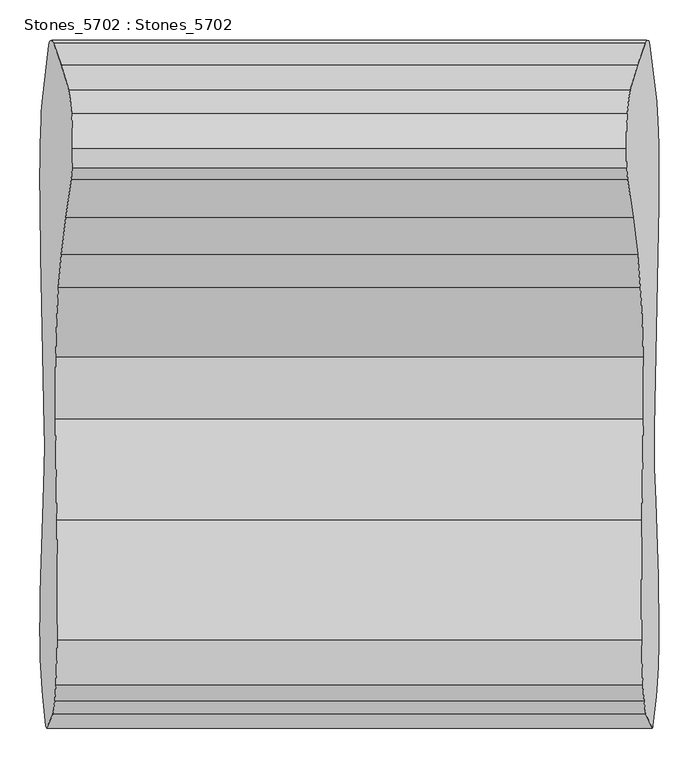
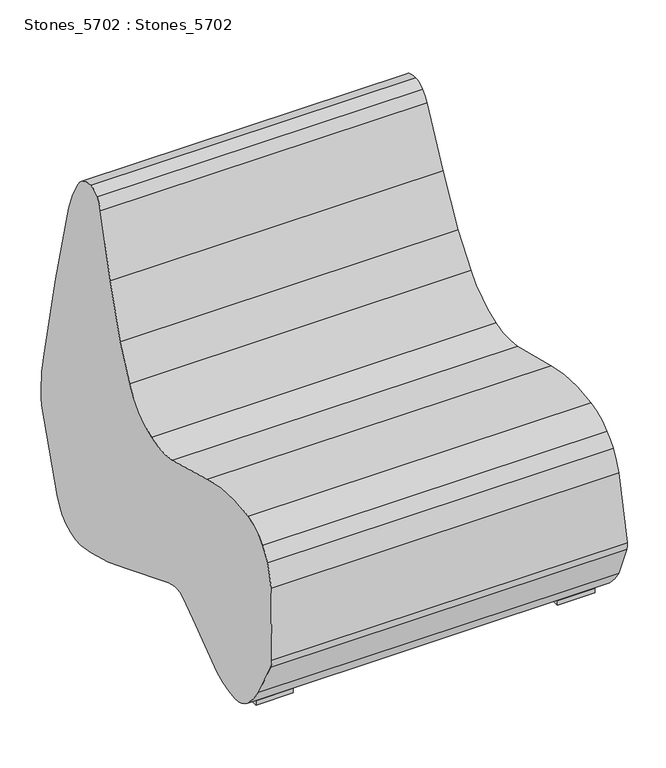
"""IFC4 building model written with IfcOpenShell, lengths in millimetres: furniture geometry, Stones_5702 : Stones_5702."""

from ifc_helpers import new_model, si_unit, frame, origin, origin_with_axes, place, context, project, spatial, polyline, ellipse_curve, outline, extrude, source, transform, mapped, element, save
from ifc_brep_helpers import plane_surface, cylinder_surface, revolved_surface, advanced_brep


def stones_5702_stones_5702_3250bf2c(model_context):
    return source(origin(), model_context, "Body", "SolidModel", [
        advanced_brep(
        [(385.3110174, -89.4815743, 39.7011175), (385.8233895, -98.5477213, 29.9244759), (-385.8233895, -98.5477213, 29.9244759), (-385.3110174, -89.4815743, 39.7011175), (384.2904864, -76.3119844, 59.1740089), (-384.2904864, -76.3119844, 59.1740089), (376.0286103, -5.8199936, 216.8199959), (-376.0286103, -5.8199936, 216.8199959), (374.5680628, 0.0, 244.6889021), (-374.5680628, 0.0, 244.6889021), (370.1478804, -3.4330027, 329.0310064), (-370.1478804, -3.4330027, 329.0310064), (360.5753916, -30.0880254, 511.6849737), (-360.5753916, -30.0880254, 511.6849737), (351.4227412, -61.5019873, 686.3279474), (-351.4227412, -61.5019873, 686.3279474), (347.7210736, -90.9500081, 756.9599733), (-347.7210736, -90.9500081, 756.9599733), (346.513597, -134.8483783, 780.0), (-346.513597, -134.8483783, 780.0), (347.0881683, -159.273999, 769.0365254), (-347.0881683, -159.273999, 769.0365254), (348.2353507, -173.6870001, 747.1469822), (-348.2353507, -173.6870001, 747.1469822), (354.8943365, -221.2533235, 620.0859628), (-354.8943365, -221.2533235, 620.0859628), (360.5063431, -267.1055076, 513.0024987), (-360.5063431, -267.1055076, 513.0024987), (364.0739166, -308.3042284, 444.9291411), (-364.0739166, -308.3042284, 444.9291411), (367.5681088, -395.6820072, 378.2559814), (-367.5681088, -395.6820072, 378.2559814), (367.8416238, -473.037008, 373.0370049), (-367.8416238, -473.037008, 373.0370049), (366.1026296, -599.6220026, 406.2189912), (-366.1026296, -599.6220026, 406.2189912), (365.7171703, -749.4260037, 413.5739928), (-365.7171703, -749.4260037, 413.5739928), (367.3106294, -805.643993, 383.168981), (-367.3106294, -805.643993, 383.168981), (368.6924678, -825.7290327, 356.8019341), (-368.6924678, -825.7290327, 356.8019341), (371.1027502, -843.0850216, 310.8110066), (-371.1027502, -843.0850216, 310.8110066), (378.9563767, -860.0, 160.9548844), (-378.9563767, -860.0, 160.9548844), (379.8386269, -857.073153, 144.1205484), (-379.8386269, -857.073153, 144.1205484), (383.9128025, -819.9294051, 66.3806469), (-383.9128025, -819.9294051, 66.3806469), (386.2895288, -783.4470012, 21.0300072), (-386.2895288, -783.4470012, 21.0300072), (387.1718138, -739.5440124, 4.1950079), (-387.1718138, -739.5440124, 4.1950079), (386.2520049, -670.8280033, 21.746007), (-386.2520049, -670.8280033, 21.746007), (383.0613141, -575.6870128, 82.6280143), (-383.0613141, -575.6870128, 82.6280143), (381.7174739, -534.5275066, 108.2700129), (-381.7174739, -534.5275066, 108.2700129), (381.4466827, -504.6660086, 113.4370167), (-381.4466827, -504.6660086, 113.4370167), (381.6770162, -484.561163, 109.0419911), (-381.6770162, -484.561163, 109.0419911), (384.7945968, -330.1980137, 49.5550103), (-384.7945968, -330.1980137, 49.5550103), (386.8694213, -206.3195893, 9.9649997), (-386.8694213, -206.3195893, 9.9649997), (387.200074, -168.3434362, 3.6557696), (-387.200074, -168.3434362, 3.6557696)],
        [
            (0, 1, ellipse_curve(frame((382.1171071, -165.0055036, 100.6445574), z_axis=(-0.9986295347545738, 0.0, -0.05233595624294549), x_axis=(0.052335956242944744, 0.0, -0.9986295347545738)), 97.1793904, 97.0462094)),
            (1, 2),
            (2, 3, ellipse_curve(frame((-382.1171071, -165.0055036, 100.6445574), z_axis=(0.9986295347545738, 0.0, -0.05233595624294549), x_axis=(0.052335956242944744, 0.0, 0.9986295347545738)), 97.1793904, 97.0462094)),
            (3, 0),
            (4, 0, ellipse_curve(frame((380.7175279, -198.1002691, 127.3501177), z_axis=(-0.9986295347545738, 0.0, -0.05233595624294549), x_axis=(0.052335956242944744, 0.0, -0.9986295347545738)), 139.7636305, 139.5720893)),
            (3, 5, ellipse_curve(frame((-380.7175279, -198.1002691, 127.3501177), z_axis=(0.9986295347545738, 0.0, -0.05233595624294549), x_axis=(0.052335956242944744, 0.0, 0.9986295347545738)), 139.7636305, 139.5720893)),
            (5, 4),
            (6, 4, ellipse_curve(frame((359.6555626, -916.0209114, 529.2363581), z_axis=(-0.9986295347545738, 0.0, -0.05233595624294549), x_axis=(0.052335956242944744, 0.0, -0.9986295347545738)), 963.645793, 962.3251499)),
            (5, 7, ellipse_curve(frame((-359.6555626, -916.0209114, 529.2363581), z_axis=(0.9986295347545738, 0.0, -0.05233595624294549), x_axis=(0.052335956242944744, 0.0, 0.9986295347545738)), 963.645793, 962.3251499)),
            (7, 6),
            (8, 6, ellipse_curve(frame((374.0823172, -114.0171861, 253.9574813), z_axis=(-0.9986295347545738, 0.0, -0.05233595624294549), x_axis=(0.052335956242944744, 0.0, -0.9986295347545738)), 114.5502793, 114.3932922)),
            (7, 9, ellipse_curve(frame((-374.0823172, -114.0171861, 253.9574813), z_axis=(0.9986295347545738, 0.0, -0.05233595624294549), x_axis=(0.052335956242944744, 0.0, 0.9986295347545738)), 114.5502793, 114.3932922)),
            (9, 8),
            (10, 8, ellipse_curve(frame((373.0929265, -346.2529959, 272.8361791), z_axis=(-0.9986295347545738, 0.0, -0.05233595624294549), x_axis=(0.052335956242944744, 0.0, -0.9986295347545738)), 347.8719196, 347.3951732)),
            (9, 11, ellipse_curve(frame((-373.0929265, -346.2529959, 272.8361791), z_axis=(0.9986295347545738, 0.0, -0.05233595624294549), x_axis=(0.052335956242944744, 0.0, 0.9986295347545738)), 347.8719196, 347.3951732)),
            (11, 10),
            (12, 10, ellipse_curve(frame((325.6022598, 5181.9287288, 1179.012083), z_axis=(0.9986295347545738, 0.0, 0.05233595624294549), x_axis=(-0.052335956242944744, 0.0, 0.9986295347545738)), 5261.7752024, 5254.5641224)),
            (11, 13, ellipse_curve(frame((-325.6022598, 5181.9287288, 1179.012083), z_axis=(-0.9986295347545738, 0.0, 0.05233595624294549), x_axis=(-0.052335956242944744, 0.0, -0.9986295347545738)), 5261.7752024, 5254.5641224)),
            (13, 12),
            (14, 12, ellipse_curve(frame((372.2440724, -1769.0618125, 289.0332815), z_axis=(-0.9986295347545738, 0.0, -0.05233595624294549), x_axis=(0.052335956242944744, 0.0, -0.9986295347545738)), 1755.5755444, 1753.1695892)),
            (13, 15, ellipse_curve(frame((-372.2440724, -1769.0618125, 289.0332815), z_axis=(0.9986295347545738, 0.0, -0.05233595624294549), x_axis=(0.052335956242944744, 0.0, 0.9986295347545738)), 1755.5755444, 1753.1695892)),
            (15, 14),
            (16, 14, ellipse_curve(frame((354.1661541, -286.4896035, 633.9805107), z_axis=(-0.9986295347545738, 0.0, -0.05233595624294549), x_axis=(0.052335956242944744, 0.0, -0.9986295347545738)), 231.3141543, 230.9971463)),
            (15, 17, ellipse_curve(frame((-354.1661541, -286.4896035, 633.9805107), z_axis=(0.9986295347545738, 0.0, -0.05233595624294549), x_axis=(0.052335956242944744, 0.0, 0.9986295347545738)), 231.3141543, 230.9971463)),
            (17, 16),
            (18, 16, ellipse_curve(frame((349.0984884, -132.7398879, 730.6773325), z_axis=(-0.9986295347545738, 0.0, -0.05233595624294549), x_axis=(0.052335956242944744, 0.0, -0.9986295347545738)), 49.4354644, 49.3677148)),
            (17, 19, ellipse_curve(frame((-349.0984884, -132.7398879, 730.6773325), z_axis=(0.9986295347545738, 0.0, -0.05233595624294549), x_axis=(0.052335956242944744, 0.0, 0.9986295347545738)), 49.4354644, 49.3677148)),
            (19, 18),
            (20, 18, ellipse_curve(frame((348.4071949, -133.3037746, 743.8679997), z_axis=(-0.9986295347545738, 0.0, -0.05233595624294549), x_axis=(0.052335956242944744, 0.0, -0.9986295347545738)), 36.2146312, 36.1650003)),
            (19, 21, ellipse_curve(frame((-348.4071949, -133.3037746, 743.8679997), z_axis=(0.9986295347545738, 0.0, -0.05233595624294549), x_axis=(0.052335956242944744, 0.0, 0.9986295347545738)), 36.2146312, 36.1650003)),
            (21, 20),
            (22, 20, ellipse_curve(frame((349.6530779, -108.7736674, 720.0951349), z_axis=(-0.9986295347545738, 0.0, -0.05233595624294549), x_axis=(0.052335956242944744, 0.0, -0.9986295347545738)), 70.4210659, 70.3245562)),
            (21, 23, ellipse_curve(frame((-349.6530779, -108.7736674, 720.0951349), z_axis=(0.9986295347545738, 0.0, -0.05233595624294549), x_axis=(0.052335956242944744, 0.0, 0.9986295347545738)), 70.4210659, 70.3245562)),
            (23, 22),
            (24, 22, ellipse_curve(frame((385.5639623, 1535.4743364, 34.8746403), z_axis=(-0.9986295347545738, 0.0, -0.05233595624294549), x_axis=(0.052335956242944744, 0.0, -0.9986295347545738)), 1854.17938, 1851.6382916)),
            (23, 25, ellipse_curve(frame((-385.5639623, 1535.4743364, 34.8746403), z_axis=(0.9986295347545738, 0.0, -0.05233595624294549), x_axis=(0.052335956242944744, 0.0, 0.9986295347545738)), 1854.17938, 1851.6382916)),
            (25, 24),
            (26, 24, ellipse_curve(frame((343.2587869, -887.7267892, 842.1054751), z_axis=(0.9986295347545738, 0.0, 0.05233595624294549), x_axis=(-0.052335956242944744, 0.0, 0.9986295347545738)), 703.445039, 702.4809921)),
            (25, 27, ellipse_curve(frame((-343.2587869, -887.7267892, 842.1054751), z_axis=(-0.9986295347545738, 0.0, 0.05233595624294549), x_axis=(-0.052335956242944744, 0.0, -0.9986295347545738)), 703.445039, 702.4809921)),
            (27, 26),
            (28, 26, ellipse_curve(frame((343.2587869, -887.7267892, 842.1054751), z_axis=(0.9986295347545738, 0.0, 0.05233595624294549), x_axis=(-0.052335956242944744, 0.0, 0.9986295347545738)), 703.445039, 702.4809921)),
            (27, 29, ellipse_curve(frame((-343.2587869, -887.7267892, 842.1054751), z_axis=(-0.9986295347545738, 0.0, 0.05233595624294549), x_axis=(-0.052335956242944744, 0.0, -0.9986295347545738)), 703.445039, 702.4809921)),
            (29, 28),
            (30, 28, ellipse_curve(frame((358.8673935, -453.2361586, 544.275519), z_axis=(0.9986295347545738, 0.0, 0.05233595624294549), x_axis=(-0.052335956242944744, 0.0, 0.9986295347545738)), 175.9538792, 175.7127405)),
            (29, 31, ellipse_curve(frame((-358.8673935, -453.2361586, 544.275519), z_axis=(-0.9986295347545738, 0.0, 0.05233595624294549), x_axis=(-0.052335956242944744, 0.0, -0.9986295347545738)), 175.9538792, 175.7127405)),
            (31, 30),
            (32, 30, ellipse_curve(frame((360.2751071, -443.9243084, 517.4147448), z_axis=(0.9986295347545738, 0.0, 0.05233595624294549), x_axis=(-0.052335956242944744, 0.0, 0.9986295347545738)), 147.4857996, 147.2836754)),
            (31, 33, ellipse_curve(frame((-360.2751071, -443.9243084, 517.4147448), z_axis=(-0.9986295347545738, 0.0, 0.05233595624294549), x_axis=(-0.052335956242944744, 0.0, -0.9986295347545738)), 147.4857996, 147.2836754)),
            (33, 32),
            (34, 32, ellipse_curve(frame((309.2373546, -247.5530042, 1491.2730764), z_axis=(0.9986295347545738, 0.0, 0.05233595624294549), x_axis=(-0.052335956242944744, 0.0, 0.9986295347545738)), 1142.30865, 1140.7431557)),
            (33, 35, ellipse_curve(frame((-309.2373546, -247.5530042, 1491.2730764), z_axis=(-0.9986295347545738, 0.0, 0.05233595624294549), x_axis=(-0.052335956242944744, 0.0, -0.9986295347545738)), 1142.30865, 1140.7431557)),
            (35, 34),
            (36, 34, ellipse_curve(frame((380.391966, -688.091325, 133.5622105), z_axis=(-0.9986295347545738, 0.0, -0.05233595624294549), x_axis=(0.052335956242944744, 0.0, -0.9986295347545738)), 287.0439394, 286.6505556)),
            (35, 37, ellipse_curve(frame((-380.391966, -688.091325, 133.5622105), z_axis=(0.9986295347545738, 0.0, -0.05233595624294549), x_axis=(0.052335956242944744, 0.0, 0.9986295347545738)), 287.0439394, 286.6505556)),
            (37, 36),
            (38, 36, ellipse_curve(frame((371.6340298, -724.6959368, 300.6735873), z_axis=(-0.9986295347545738, 0.0, -0.05233595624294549), x_axis=(0.052335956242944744, 0.0, -0.9986295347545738)), 115.7357626, 115.5771508)),
            (37, 39, ellipse_curve(frame((-371.6340298, -724.6959368, 300.6735873), z_axis=(0.9986295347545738, 0.0, -0.05233595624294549), x_axis=(0.052335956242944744, 0.0, 0.9986295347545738)), 115.7357626, 115.5771508)),
            (39, 38),
            (40, 38, ellipse_curve(frame((371.6340298, -724.6959368, 300.6735873), z_axis=(-0.9986295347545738, 0.0, -0.05233595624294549), x_axis=(0.052335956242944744, 0.0, -0.9986295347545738)), 115.7357626, 115.5771508)),
            (39, 41, ellipse_curve(frame((-371.6340298, -724.6959368, 300.6735873), z_axis=(0.9986295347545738, 0.0, -0.05233595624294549), x_axis=(0.052335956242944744, 0.0, 0.9986295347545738)), 115.7357626, 115.5771508)),
            (41, 40),
            (42, 40, ellipse_curve(frame((372.9854227, -678.2799832, 274.8874751), z_axis=(-0.9986295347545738, 0.0, -0.05233595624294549), x_axis=(0.052335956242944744, 0.0, -0.9986295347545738)), 168.9063177, 168.6748374)),
            (41, 43, ellipse_curve(frame((-372.9854227, -678.2799832, 274.8874751), z_axis=(0.9986295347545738, 0.0, -0.05233595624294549), x_axis=(0.052335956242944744, 0.0, 0.9986295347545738)), 168.9063177, 168.6748374)),
            (43, 42),
            (44, 42, ellipse_curve(frame((379.350579, -121.0881092, 153.4330579), z_axis=(-0.9986295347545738, 0.0, -0.05233595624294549), x_axis=(0.052335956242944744, 0.0, -0.9986295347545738)), 739.9642697, 738.9501744)),
            (43, 45, ellipse_curve(frame((-379.350579, -121.0881092, 153.4330579), z_axis=(0.9986295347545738, 0.0, -0.05233595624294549), x_axis=(0.052335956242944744, 0.0, 0.9986295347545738)), 739.9642697, 738.9501744)),
            (45, 44),
            (46, 44, ellipse_curve(frame((378.9815136, -812.8823189, 160.4752453), z_axis=(-0.9986295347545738, 0.0, -0.05233595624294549), x_axis=(0.052335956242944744, 0.0, -0.9986295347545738)), 47.1847874, 47.1201223)),
            (45, 47, ellipse_curve(frame((-378.9815136, -812.8823189, 160.4752453), z_axis=(0.9986295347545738, 0.0, -0.05233595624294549), x_axis=(0.052335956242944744, 0.0, 0.9986295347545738)), 47.1847874, 47.1201223)),
            (47, 46),
            (48, 46, ellipse_curve(frame((371.2406951, -413.7831485, 308.1788605), z_axis=(-0.9986295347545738, 0.0, -0.05233595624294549), x_axis=(0.052335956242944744, 0.0, -0.9986295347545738)), 473.3231464, 472.6744735)),
            (47, 49, ellipse_curve(frame((-371.2406951, -413.7831485, 308.1788605), z_axis=(0.9986295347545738, 0.0, -0.05233595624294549), x_axis=(0.052335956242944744, 0.0, 0.9986295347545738)), 473.3231464, 472.6744735)),
            (49, 48),
            (50, 48, ellipse_curve(frame((378.3398114, -641.3127469, 172.7196521), z_axis=(-0.9986295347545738, 0.0, -0.05233595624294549), x_axis=(0.052335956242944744, 0.0, -0.9986295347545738)), 208.1599849, 207.8747089)),
            (49, 51, ellipse_curve(frame((-378.3398114, -641.3127469, 172.7196521), z_axis=(0.9986295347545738, 0.0, -0.05233595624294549), x_axis=(0.052335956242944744, 0.0, 0.9986295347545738)), 208.1599849, 207.8747089)),
            (51, 50),
            (52, 50, ellipse_curve(frame((383.9056535, -740.8253182, 66.5170575), z_axis=(-0.9986295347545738, 0.0, -0.05233595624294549), x_axis=(0.052335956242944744, 0.0, -0.9986295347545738)), 62.4207651, 62.3352196)),
            (51, 53, ellipse_curve(frame((-383.9056535, -740.8253182, 66.5170575), z_axis=(0.9986295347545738, 0.0, -0.05233595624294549), x_axis=(0.052335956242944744, 0.0, 0.9986295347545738)), 62.4207651, 62.3352196)),
            (53, 52),
            (54, 52, ellipse_curve(frame((379.0046476, -742.7479694, 160.0338219), z_axis=(-0.9986295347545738, 0.0, -0.05233595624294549), x_axis=(0.052335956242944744, 0.0, -0.9986295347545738)), 156.0856562, 155.8717463)),
            (53, 55, ellipse_curve(frame((-379.0046476, -742.7479694, 160.0338219), z_axis=(0.9986295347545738, 0.0, -0.05233595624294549), x_axis=(0.052335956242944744, 0.0, 0.9986295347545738)), 156.0856562, 155.8717463)),
            (55, 54),
            (56, 54, ellipse_curve(frame((356.9297795, -961.8104094, 581.2473981), z_axis=(-0.9986295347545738, 0.0, -0.05233595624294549), x_axis=(0.052335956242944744, 0.0, -0.9986295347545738)), 631.5100276, 630.644565)),
            (55, 57, ellipse_curve(frame((-356.9297795, -961.8104094, 581.2473981), z_axis=(0.9986295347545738, 0.0, -0.05233595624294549), x_axis=(0.052335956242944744, 0.0, 0.9986295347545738)), 631.5100276, 630.644565)),
            (57, 56),
            (58, 56, ellipse_curve(frame((392.950332, -429.5654295, -106.0656895), z_axis=(0.9986295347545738, 0.0, 0.05233595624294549), x_axis=(-0.052335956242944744, 0.0, 0.9986295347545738)), 238.9838219, 238.6563029)),
            (57, 59, ellipse_curve(frame((-392.950332, -429.5654295, -106.0656895), z_axis=(-0.9986295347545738, 0.0, 0.05233595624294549), x_axis=(-0.052335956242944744, 0.0, -0.9986295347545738)), 238.9838219, 238.6563029)),
            (59, 58),
            (60, 58, ellipse_curve(frame((384.2623904, -510.7472969, 59.710113), z_axis=(0.9986295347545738, 0.0, 0.05233595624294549), x_axis=(-0.052335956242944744, 0.0, 0.9986295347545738)), 54.1441782, 54.0699755)),
            (59, 61, ellipse_curve(frame((-384.2623904, -510.7472969, 59.710113), z_axis=(-0.9986295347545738, 0.0, 0.05233595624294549), x_axis=(-0.052335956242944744, 0.0, -0.9986295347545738)), 54.1441782, 54.0699755)),
            (61, 60),
            (62, 60, ellipse_curve(frame((386.6830709, -515.9754163, 13.5207769), z_axis=(0.9986295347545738, 0.0, 0.05233595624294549), x_axis=(-0.052335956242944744, 0.0, 0.9986295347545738)), 100.6922476, 100.5542524)),
            (61, 63, ellipse_curve(frame((-386.6830709, -515.9754163, 13.5207769), z_axis=(-0.9986295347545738, 0.0, 0.05233595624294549), x_axis=(-0.052335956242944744, 0.0, -0.9986295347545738)), 100.6922476, 100.5542524)),
            (63, 62),
            (64, 62, ellipse_curve(frame((463.9029037, -1000.549303, -1459.9214079), z_axis=(0.9986295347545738, 0.0, 0.05233595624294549), x_axis=(-0.052335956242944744, 0.0, 0.9986295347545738)), 1653.8991091, 1651.6324979)),
            (63, 65, ellipse_curve(frame((-463.9029037, -1000.549303, -1459.9214079), z_axis=(-0.9986295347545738, 0.0, 0.05233595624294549), x_axis=(-0.052335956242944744, 0.0, -0.9986295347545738)), 1653.8991091, 1651.6324979)),
            (65, 64),
            (66, 64, ellipse_curve(frame((356.0602858, -86.7080041, 597.8383259), z_axis=(-0.9986295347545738, 0.0, -0.05233595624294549), x_axis=(0.052335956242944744, 0.0, -0.9986295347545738)), 600.7416057, 599.9183102)),
            (65, 67, ellipse_curve(frame((-356.0602858, -86.7080041, 597.8383259), z_axis=(0.9986295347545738, 0.0, -0.05233595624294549), x_axis=(0.052335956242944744, 0.0, 0.9986295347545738)), 600.7416057, 599.9183102)),
            (67, 66),
            (68, 66, ellipse_curve(frame((359.4749065, -99.964728, 532.6834804), z_axis=(-0.9986295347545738, 0.0, -0.05233595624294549), x_axis=(0.052335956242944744, 0.0, -0.9986295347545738)), 534.1605503, 533.4285018)),
            (67, 69, ellipse_curve(frame((-359.4749065, -99.964728, 532.6834804), z_axis=(0.9986295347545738, 0.0, -0.05233595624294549), x_axis=(0.052335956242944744, 0.0, 0.9986295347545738)), 534.1605503, 533.4285018)),
            (69, 68),
            (1, 68, ellipse_curve(frame((382.1171071, -165.0055036, 100.6445574), z_axis=(-0.9986295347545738, 0.0, -0.05233595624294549), x_axis=(0.052335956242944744, 0.0, -0.9986295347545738)), 97.1793904, 97.0462094)),
            (69, 2, ellipse_curve(frame((-382.1171071, -165.0055036, 100.6445574), z_axis=(0.9986295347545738, 0.0, -0.05233595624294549), x_axis=(0.052335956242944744, 0.0, 0.9986295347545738)), 97.1793904, 97.0462094)),
        ],
        [
            cylinder_surface(frame((-390.0, -165.0055036, 100.6445574), z_axis=(1.0, 0.0, 0.0), x_axis=(0.0, 1.0, 0.0)), 97.0462094),
            cylinder_surface(frame((-390.0, -198.1002691, 127.3501177), z_axis=(1.0, 0.0, 0.0), x_axis=(0.0, 1.0, 0.0)), 139.5720893),
            cylinder_surface(frame((-390.0, -916.0209114, 529.2363581), z_axis=(1.0, 0.0, 0.0), x_axis=(0.0, 1.0, 0.0)), 962.3251499),
            cylinder_surface(frame((-390.0, -114.0171861, 253.9574813), z_axis=(1.0, 0.0, 0.0), x_axis=(0.0, 1.0, 0.0)), 114.3932922),
            cylinder_surface(frame((-390.0, -346.2529959, 272.8361791), z_axis=(1.0, 0.0, 0.0), x_axis=(0.0, 1.0, 0.0)), 347.3951732),
            revolved_surface(polyline([(-600.9822965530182, 10436.4928512, 1179.012083), (600.9822965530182, 10436.4928512, 1179.012083)]), (-390.0, 5181.9287288, 1179.012083), (-1.0, 0.0, 0.0)),
            cylinder_surface(frame((-390.0, -1769.0618125, 289.0332815), z_axis=(1.0, 0.0, 0.0), x_axis=(0.0, 1.0, 0.0)), 1753.1695892),
            cylinder_surface(frame((-390.0, -286.4896035, 633.9805107), z_axis=(1.0, 0.0, 0.0), x_axis=(0.0, 1.0, 0.0)), 230.9971463),
            cylinder_surface(frame((-390.0, -132.7398879, 730.6773325), z_axis=(1.0, 0.0, 0.0), x_axis=(0.0, 1.0, 0.0)), 49.3677148),
            cylinder_surface(frame((-390.0, -133.3037746, 743.8679997), z_axis=(1.0, 0.0, 0.0), x_axis=(0.0, 1.0, 0.0)), 36.1650003),
            cylinder_surface(frame((-390.0, -108.7736674, 720.0951349), z_axis=(1.0, 0.0, 0.0), x_axis=(0.0, 1.0, 0.0)), 70.3245562),
            cylinder_surface(frame((-390.0, 1535.4743364, 34.8746403), z_axis=(1.0, 0.0, 0.0), x_axis=(0.0, 1.0, 0.0)), 1851.6382916),
            revolved_surface(polyline([(-380.0742556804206, -185.2457971, 842.1054751), (380.0742556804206, -185.2457971, 842.1054751)]), (-390.0, -887.7267892, 842.1054751), (-1.0, 0.0, 0.0)),
            revolved_surface(polyline([(-368.07610802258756, -277.5234181, 544.275519), (368.0761080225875, -277.5234181, 544.275519)]), (-390.0, -453.2361586, 544.275519), (-1.0, 0.0, 0.0)),
            revolved_surface(polyline([(-367.9939174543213, -296.640633, 517.4147448), (367.9939174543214, -296.640633, 517.4147448)]), (-390.0, -443.9243084, 517.4147448), (-1.0, 0.0, 0.0)),
            revolved_surface(polyline([(-369.02117012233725, 893.1901515, 1491.2730764), (369.02117012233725, 893.1901515, 1491.2730764)]), (-390.0, -247.5530042, 1491.2730764), (-1.0, 0.0, 0.0)),
            cylinder_surface(frame((-390.0, -688.091325, 133.5622105), z_axis=(1.0, 0.0, 0.0), x_axis=(0.0, 1.0, 0.0)), 286.6505556),
            cylinder_surface(frame((-390.0, -724.6959368, 300.6735873), z_axis=(1.0, 0.0, 0.0), x_axis=(0.0, 1.0, 0.0)), 115.5771508),
            cylinder_surface(frame((-390.0, -678.2799832, 274.8874751), z_axis=(1.0, 0.0, 0.0), x_axis=(0.0, 1.0, 0.0)), 168.6748374),
            cylinder_surface(frame((-390.0, -121.0881092, 153.4330579), z_axis=(1.0, 0.0, 0.0), x_axis=(0.0, 1.0, 0.0)), 738.9501744),
            cylinder_surface(frame((-390.0, -812.8823189, 160.4752453), z_axis=(1.0, 0.0, 0.0), x_axis=(0.0, 1.0, 0.0)), 47.1201223),
            cylinder_surface(frame((-390.0, -413.7831485, 308.1788605), z_axis=(1.0, 0.0, 0.0), x_axis=(0.0, 1.0, 0.0)), 472.6744735),
            cylinder_surface(frame((-390.0, -641.3127469, 172.7196521), z_axis=(1.0, 0.0, 0.0), x_axis=(0.0, 1.0, 0.0)), 207.8747089),
            cylinder_surface(frame((-390.0, -740.8253182, 66.5170575), z_axis=(1.0, 0.0, 0.0), x_axis=(0.0, 1.0, 0.0)), 62.3352196),
            cylinder_surface(frame((-390.0, -742.7479694, 160.0338219), z_axis=(1.0, 0.0, 0.0), x_axis=(0.0, 1.0, 0.0)), 155.8717463),
            cylinder_surface(frame((-390.0, -961.8104094, 581.2473981), z_axis=(1.0, 0.0, 0.0), x_axis=(0.0, 1.0, 0.0)), 630.644565),
            revolved_surface(polyline([(-405.4577788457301, -190.9091266, -106.0656895), (405.4577788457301, -190.9091266, -106.0656895)]), (-390.0, -429.5654295, -106.0656895), (-1.0, 0.0, 0.0)),
            revolved_surface(polyline([(-387.0960777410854, -456.6773214, 59.710113), (387.0960777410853, -456.6773214, 59.710113)]), (-390.0, -510.7472969, 59.710113), (-1.0, 0.0, 0.0)),
            revolved_surface(polyline([(-391.9528959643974, -415.4211639, 13.5207769), (391.9528959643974, -415.4211639, 13.5207769)]), (-390.0, -515.9754163, 13.5207769), (-1.0, 0.0, 0.0)),
            revolved_surface(polyline([(-550.4612951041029, 651.0831949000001, -1459.9214079), (550.4612951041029, 651.0831949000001, -1459.9214079)]), (-390.0, -1000.549303, -1459.9214079), (-1.0, 0.0, 0.0)),
            cylinder_surface(frame((-390.0, -86.7080041, 597.8383259), z_axis=(1.0, 0.0, 0.0), x_axis=(0.0, 1.0, 0.0)), 599.9183102),
            cylinder_surface(frame((-390.0, -99.964728, 532.6834804), z_axis=(1.0, 0.0, 0.0), x_axis=(0.0, 1.0, 0.0)), 533.4285018),
            plane_surface(frame((344.9293098, -973.7922951, 810.2299995), z_axis=(0.9986295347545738, 0.0, 0.05233595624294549), x_axis=(0.0, 1.0, 0.0))),
            plane_surface(frame((-390.0, -973.7922951, -49.7700005), z_axis=(-0.9986295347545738, 0.0, 0.05233595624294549), x_axis=(0.0, 1.0, 0.0))),
        ],
        [
            (0, [[1, 2, 3, 4]]),
            (1, [[5, -4, 6, 7]]),
            (2, [[8, -7, 9, 10]]),
            (3, [[11, -10, 12, 13]]),
            (4, [[14, -13, 15, 16]]),
            (5, [[17, -16, 18, 19]]),
            (6, [[20, -19, 21, 22]]),
            (7, [[23, -22, 24, 25]]),
            (8, [[26, -25, 27, 28]]),
            (9, [[29, -28, 30, 31]]),
            (10, [[32, -31, 33, 34]]),
            (11, [[35, -34, 36, 37]]),
            (12, [[38, -37, 39, 40]]),
            (12, [[41, -40, 42, 43]]),
            (13, [[44, -43, 45, 46]]),
            (14, [[47, -46, 48, 49]]),
            (15, [[50, -49, 51, 52]]),
            (16, [[53, -52, 54, 55]]),
            (17, [[56, -55, 57, 58]]),
            (17, [[59, -58, 60, 61]]),
            (18, [[62, -61, 63, 64]]),
            (19, [[65, -64, 66, 67]]),
            (20, [[68, -67, 69, 70]]),
            (21, [[71, -70, 72, 73]]),
            (22, [[74, -73, 75, 76]]),
            (23, [[77, -76, 78, 79]]),
            (24, [[80, -79, 81, 82]]),
            (25, [[83, -82, 84, 85]]),
            (26, [[86, -85, 87, 88]]),
            (27, [[89, -88, 90, 91]]),
            (28, [[92, -91, 93, 94]]),
            (29, [[95, -94, 96, 97]]),
            (30, [[98, -97, 99, 100]]),
            (31, [[101, -100, 102, 103]]),
            (0, [[104, -103, 105, -2]]),
            (32, [[-1, -5, -8, -11, -14, -17, -20, -23, -26, -29, -32, -35, -38, -41, -44, -47, -50, -53, -56, -59, -62, -65, -68, -71, -74, -77, -80, -83, -86, -89, -92, -95, -98, -101, -104]]),
            (33, [[-3, -105, -102, -99, -96, -93, -90, -87, -84, -81, -78, -75, -72, -69, -66, -63, -60, -57, -54, -51, -48, -45, -42, -39, -36, -33, -30, -27, -24, -21, -18, -15, -12, -9, -6]]),
        ],
    ),
        extrude(outline(polyline([(-281.5960021, -193.5539924), (-361.2620151, -193.5539924), (-361.2620151, -136.2250062), (-281.5960021, -136.2250062), (-281.5960021, -193.5539924)])), origin_with_axes(), (0.0, 0.0, 1.0), 10.0),
        extrude(outline(polyline([(281.5960021, -193.5539924), (281.5960021, -136.2250062), (361.2620151, -136.2250062), (361.2620151, -193.5539924), (281.5960021, -193.5539924)])), origin_with_axes(), (0.0, 0.0, 1.0), 10.0),
        extrude(outline(polyline([(-281.5960021, -770.6035083), (-361.2620151, -770.6035083), (-361.2620151, -713.2745221), (-281.5960021, -713.2745221), (-281.5960021, -770.6035083)])), origin_with_axes(), (0.0, 0.0, 1.0), 10.0),
        extrude(outline(polyline([(281.5960021, -770.6035083), (281.5960021, -713.2745221), (361.2620151, -713.2745221), (361.2620151, -770.6035083), (281.5960021, -770.6035083)])), origin_with_axes(), (0.0, 0.0, 1.0), 10.0),
    ])


if __name__ == "__main__":
    model = new_model("IFC4")
    model_context = context("Model", 3, world=origin())
    ifc_project = project(units=[si_unit("LENGTHUNIT", "METRE", prefix="MILLI")], contexts=[model_context])
    site = spatial("IfcSite", under=ifc_project)
    building = spatial("IfcBuilding", under=site)
    placement = place(None, origin())
    stones_5702_stones_5702_shape = stones_5702_stones_5702_3250bf2c(model_context)
    element("IfcFurniture", 1, ObjectType="Stones_5702 : Stones_5702", at=placement, inside=building, context=model_context, shape_type="MappedRepresentation", body=[
        mapped(stones_5702_stones_5702_shape, transform((0.0, 0.0, 0.0), x_axis=(1.0, 0.0, 0.0), y_axis=(0.0, 1.0, 0.0), z_axis=(0.0, 0.0, 1.0))),
    ])
    save(model, "model.ifc")
